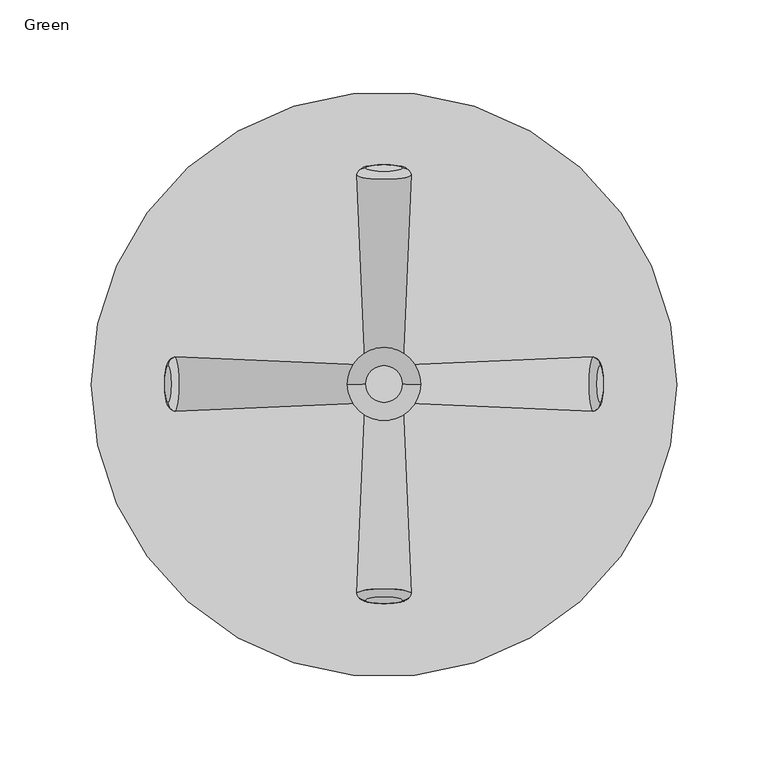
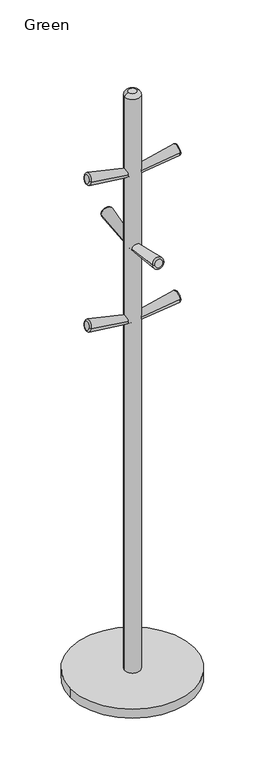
"""IFC4 building model written with IfcOpenShell, lengths in millimetres: furniture geometry, Skand Coat Rack : Green."""

from ifc_helpers import new_model, si_unit, point, frame, origin, origin_with_axes, origin_2d, place, context, project, spatial, polyline, circle_curve, ellipse_curve, trimmed, segment, composite_curve, outline, extrude, source, transform, mapped, element, save
from ifc_brep_helpers import plane_surface, cylinder_surface, revolved_surface, advanced_brep


def green_13b12a48(model_context):
    return source(origin(), model_context, "Body", "SolidModel", [
        advanced_brep(
        [(118.1769304, 10.0, 1400.652645), (118.1769304, -10.0, 1400.652645), (0.0, 10.0, 1379.8148637), (0.0, -10.0, 1379.8148637), (114.4755968, -14.8433986, 1400.0), (114.4755968, 14.8433986, 1400.0)],
        [
            (0, 1, circle_curve(frame((118.1769304, 0.0, 1400.652645), z_axis=(0.9848077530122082, 0.0, 0.1736481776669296), x_axis=(0.0, -1.0, 0.0)), 10.0)),
            (1, 0, circle_curve(frame((118.1769304, 0.0, 1400.652645), z_axis=(0.9848077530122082, 0.0, 0.1736481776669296), x_axis=(0.0, 1.0, 0.0)), 10.0)),
            (2, 3, circle_curve(frame((0.0, 0.0, 1379.8148637), z_axis=(-0.984807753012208, 0.0, -0.1736481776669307), x_axis=(0.0, -1.0, 0.0)), 10.0)),
            (3, 2, circle_curve(frame((0.0, 0.0, 1379.8148637), z_axis=(-0.984807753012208, 0.0, -0.1736481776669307), x_axis=(0.0, 1.0, 0.0)), 10.0)),
            (3, 4),
            (4, 5, circle_curve(frame((114.4755968, 0.0, 1400.0), z_axis=(-0.984807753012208, 0.0, -0.1736481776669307), x_axis=(0.0, 1.0, 0.0)), 14.8433986)),
            (5, 2),
            (5, 4, circle_curve(frame((114.4755968, 0.0, 1400.0), z_axis=(-0.984807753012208, 0.0, -0.1736481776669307), x_axis=(0.0, -1.0, 0.0)), 14.8433986)),
            (4, 1, circle_curve(frame((113.2528916, -10.0, 1399.7844041), z_axis=(-0.17364817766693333, 0.0, 0.9848077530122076), x_axis=(0.0, -1.0, 0.0)), 5.0)),
            (0, 5, circle_curve(frame((113.2528916, 10.0, 1399.7844041), z_axis=(-0.1736481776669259, 0.0, 0.9848077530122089), x_axis=(0.0, 1.0, 0.0)), 5.0)),
        ],
        [
            plane_surface(frame((118.1769304, 0.0, 1400.652645), z_axis=(0.9848077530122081, 0.0, 0.17364817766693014), x_axis=(0.17364817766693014, 0.0, -0.9848077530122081))),
            plane_surface(frame((0.0, 0.0, 1379.8148637), z_axis=(-0.9848077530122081, 0.0, -0.17364817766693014), x_axis=(0.17364817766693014, 0.0, -0.9848077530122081))),
            revolved_surface(polyline([(9.162761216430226e-09, -9.99999997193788, 1379.814863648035), (114.47559679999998, -14.8433986, 1400.0)]), (-236.3538607, 0.0, 1338.139301), (0.984807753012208, 0.0, 0.1736481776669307)),
            revolved_surface(polyline([(9.162761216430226e-09, 9.99999997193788, 1379.814863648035), (114.47559679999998, 14.8433986, 1400.0)]), (-236.3538607, 0.0, 1338.139301), (0.984807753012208, 0.0, 0.1736481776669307)),
            revolved_surface(trimmed(ellipse_curve(frame((113.2528916, -10.0, 1399.7844041), z_axis=(0.17364817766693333, 0.0, -0.9848077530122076), x_axis=(0.0, -1.0, 0.0)), 5.0, 5.0), [point((118.1769304, -10.0, 1400.652645))], [point((113.2528916, -15.0, 1399.7844041))], True, "CARTESIAN"), (118.1769304, 0.0, 1400.652645), (-0.9848077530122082, 0.0, -0.1736481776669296)),
            revolved_surface(trimmed(ellipse_curve(frame((113.2528916, 10.0, 1399.7844041), z_axis=(-0.1736481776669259, 0.0, 0.9848077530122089), x_axis=(0.0, 1.0, 0.0)), 5.0, 5.0), [point((118.1769304, 10.0, 1400.652645))], [point((113.2528916, 15.0, 1399.7844041))], True, "CARTESIAN"), (118.1769304, 0.0, 1400.652645), (-0.9848077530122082, 0.0, -0.1736481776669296)),
        ],
        [
            (0, [[1, 2]]),
            (1, [[3, 4]]),
            (2, [[-4, 5, 6, 7]]),
            (3, [[-3, -7, 8, -5]]),
            (4, [[9, -1, 10, -6]]),
            (5, [[-9, -8, -10, -2]]),
        ],
    ),
        advanced_brep(
        [(-118.1769304, 10.0, 1400.652645), (-118.1769304, -10.0, 1400.652645), (0.0, -10.0, 1379.8148637), (0.0, 10.0, 1379.8148637), (-114.4755968, -14.8433986, 1400.0), (-114.4755968, 14.8433986, 1400.0)],
        [
            (0, 1, circle_curve(frame((-118.1769304, 0.0, 1400.652645), z_axis=(-0.984807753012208, 0.0, 0.1736481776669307), x_axis=(0.0, -1.0, 0.0)), 10.0)),
            (1, 0, circle_curve(frame((-118.1769304, 0.0, 1400.652645), z_axis=(-0.984807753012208, 0.0, 0.1736481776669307), x_axis=(0.0, 1.0, 0.0)), 10.0)),
            (2, 3, circle_curve(frame((0.0, 0.0, 1379.8148637), z_axis=(0.984807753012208, 0.0, -0.1736481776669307), x_axis=(0.0, 1.0, 0.0)), 10.0)),
            (3, 2, circle_curve(frame((0.0, 0.0, 1379.8148637), z_axis=(0.984807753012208, 0.0, -0.1736481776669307), x_axis=(0.0, -1.0, 0.0)), 10.0)),
            (2, 4),
            (4, 5, circle_curve(frame((-114.4755968, 0.0, 1400.0), z_axis=(0.984807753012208, 0.0, -0.1736481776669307), x_axis=(0.0, 1.0, 0.0)), 14.8433986)),
            (5, 3),
            (5, 4, circle_curve(frame((-114.4755968, 0.0, 1400.0), z_axis=(0.984807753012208, 0.0, -0.1736481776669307), x_axis=(0.0, -1.0, 0.0)), 14.8433986)),
            (0, 5, circle_curve(frame((-113.2528916, 10.0, 1399.7844041), z_axis=(-0.17364817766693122, 0.0, -0.9848077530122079), x_axis=(0.0, 1.0, 0.0)), 5.0)),
            (4, 1, circle_curve(frame((-113.2528916, -10.0, 1399.7844041), z_axis=(-0.17364817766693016, 0.0, -0.9848077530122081), x_axis=(0.0, -1.0, 0.0)), 5.0)),
        ],
        [
            plane_surface(frame((-118.1769304, 0.0, 1400.652645), z_axis=(-0.9848077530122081, 0.0, 0.17364817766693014), x_axis=(-0.17364817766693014, 0.0, -0.9848077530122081))),
            plane_surface(frame((0.0, 0.0, 1379.8148637), z_axis=(0.9848077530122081, 0.0, -0.17364817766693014), x_axis=(-0.17364817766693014, 0.0, -0.9848077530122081))),
            revolved_surface(polyline([(-9.162761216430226e-09, -9.99999997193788, 1379.814863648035), (-114.47559679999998, -14.8433986, 1400.0)]), (236.3538607, 0.0, 1338.139301), (-0.984807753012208, 0.0, 0.1736481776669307)),
            revolved_surface(polyline([(-9.162761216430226e-09, 9.99999997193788, 1379.814863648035), (-114.47559679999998, 14.8433986, 1400.0)]), (236.3538607, 0.0, 1338.139301), (-0.984807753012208, 0.0, 0.1736481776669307)),
            revolved_surface(trimmed(ellipse_curve(frame((-113.2528916, -10.0, 1399.7844041), z_axis=(0.17364817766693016, 0.0, 0.9848077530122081), x_axis=(0.0, -1.0, 0.0)), 5.0, 5.0), [point((-118.1769304, -10.0, 1400.652645))], [point((-113.2528916, -15.0, 1399.7844041))], True, "CARTESIAN"), (-118.1769304, 0.0, 1400.652645), (0.984807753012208, 0.0, -0.1736481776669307)),
            revolved_surface(trimmed(ellipse_curve(frame((-113.2528916, 10.0, 1399.7844041), z_axis=(-0.1736481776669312, 0.0, -0.9848077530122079), x_axis=(0.0, 1.0, 0.0)), 5.0, 5.0), [point((-118.1769304, 10.0, 1400.652645))], [point((-113.2528916, 15.0, 1399.7844041))], True, "CARTESIAN"), (-118.1769304, 0.0, 1400.652645), (0.984807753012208, 0.0, -0.1736481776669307)),
        ],
        [
            (0, [[1, 2]]),
            (1, [[3, 4]]),
            (2, [[-3, 5, 6, 7]]),
            (3, [[-4, -7, 8, -5]]),
            (4, [[9, -6, 10, -1]]),
            (5, [[-9, -2, -10, -8]]),
        ],
    ),
        advanced_brep(
        [(-10.0, 118.1769304, 1200.652645), (10.0, 118.1769304, 1200.652645), (-10.0, 0.0, 1179.8148637), (10.0, 0.0, 1179.8148637), (14.8433986, 114.4755968, 1200.0), (-14.8433986, 114.4755968, 1200.0)],
        [
            (0, 1, circle_curve(frame((0.0, 118.1769304, 1200.652645), z_axis=(0.0, 0.9848077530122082, 0.1736481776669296), x_axis=(1.0, 0.0, 0.0)), 10.0)),
            (1, 0, circle_curve(frame((0.0, 118.1769304, 1200.652645), z_axis=(0.0, 0.9848077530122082, 0.1736481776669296), x_axis=(-1.0, 0.0, 0.0)), 10.0)),
            (2, 3, circle_curve(frame((0.0, 0.0, 1179.8148637), z_axis=(0.0, -0.9848077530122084, -0.1736481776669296), x_axis=(1.0, 0.0, 0.0)), 10.0)),
            (3, 2, circle_curve(frame((0.0, 0.0, 1179.8148637), z_axis=(0.0, -0.9848077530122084, -0.1736481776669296), x_axis=(-1.0, 0.0, 0.0)), 10.0)),
            (3, 4),
            (4, 5, circle_curve(frame((0.0, 114.4755968, 1200.0), z_axis=(0.0, -0.9848077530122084, -0.1736481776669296), x_axis=(-1.0, 0.0, 0.0)), 14.8433986)),
            (5, 2),
            (5, 4, circle_curve(frame((0.0, 114.4755968, 1200.0), z_axis=(0.0, -0.9848077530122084, -0.1736481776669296), x_axis=(1.0, 0.0, 0.0)), 14.8433986)),
            (4, 1, circle_curve(frame((10.0, 113.2528916, 1199.7844041), z_axis=(0.0, -0.17364817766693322, 0.9848077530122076), x_axis=(1.0, 0.0, 0.0)), 5.0)),
            (0, 5, circle_curve(frame((-10.0, 113.2528916, 1199.7844041), z_axis=(0.0, -0.173648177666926, 0.9848077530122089), x_axis=(-1.0, 0.0, 0.0)), 5.0)),
        ],
        [
            plane_surface(frame((0.0, 118.1769304, 1200.652645), z_axis=(0.0, 0.9848077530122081, 0.17364817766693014), x_axis=(0.0, 0.17364817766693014, -0.9848077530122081))),
            plane_surface(frame((0.0, 0.0, 1179.8148637), z_axis=(0.0, -0.9848077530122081, -0.17364817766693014), x_axis=(0.0, 0.17364817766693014, -0.9848077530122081))),
            revolved_surface(polyline([(9.99999997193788, 9.162761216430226e-09, 1179.814863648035), (14.8433986, 114.47559679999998, 1200.0)]), (0.0, -236.3538607, 1138.139301), (0.0, 0.9848077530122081, 0.17364817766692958)),
            revolved_surface(polyline([(-9.99999997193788, 9.162761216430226e-09, 1179.814863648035), (-14.8433986, 114.47559679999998, 1200.0)]), (0.0, -236.3538607, 1138.139301), (0.0, 0.9848077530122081, 0.17364817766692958)),
            revolved_surface(trimmed(ellipse_curve(frame((10.0, 113.2528916, 1199.7844041), z_axis=(0.0, 0.17364817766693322, -0.9848077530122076), x_axis=(1.0, 0.0, 0.0)), 5.0, 5.0), [point((10.0, 118.1769304, 1200.652645))], [point((15.0, 113.2528916, 1199.7844041))], True, "CARTESIAN"), (0.0, 118.1769304, 1200.652645), (0.0, -0.9848077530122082, -0.1736481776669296)),
            revolved_surface(trimmed(ellipse_curve(frame((-10.0, 113.2528916, 1199.7844041), z_axis=(0.0, -0.17364817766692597, 0.9848077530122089), x_axis=(-1.0, 0.0, 0.0)), 5.0, 5.0), [point((-10.0, 118.1769304, 1200.652645))], [point((-15.0, 113.2528916, 1199.7844041))], True, "CARTESIAN"), (0.0, 118.1769304, 1200.652645), (0.0, -0.9848077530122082, -0.1736481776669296)),
        ],
        [
            (0, [[1, 2]]),
            (1, [[3, 4]]),
            (2, [[-4, 5, 6, 7]]),
            (3, [[-3, -7, 8, -5]]),
            (4, [[9, -1, 10, -6]]),
            (5, [[-9, -8, -10, -2]]),
        ],
    ),
        advanced_brep(
        [(10.0, -118.1769304, 1200.652645), (-10.0, -118.1769304, 1200.652645), (10.0, 0.0, 1179.8148637), (-10.0, 0.0, 1179.8148637), (-14.8433986, -114.4755968, 1200.0), (14.8433986, -114.4755968, 1200.0)],
        [
            (0, 1, circle_curve(frame((0.0, -118.1769304, 1200.652645), z_axis=(0.0, -0.9848077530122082, 0.1736481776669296), x_axis=(-1.0, 0.0, 0.0)), 10.0)),
            (1, 0, circle_curve(frame((0.0, -118.1769304, 1200.652645), z_axis=(0.0, -0.9848077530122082, 0.1736481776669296), x_axis=(1.0, 0.0, 0.0)), 10.0)),
            (2, 3, circle_curve(frame((0.0, 0.0, 1179.8148637), z_axis=(0.0, 0.9848077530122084, -0.1736481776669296), x_axis=(-1.0, 0.0, 0.0)), 10.0)),
            (3, 2, circle_curve(frame((0.0, 0.0, 1179.8148637), z_axis=(0.0, 0.9848077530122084, -0.1736481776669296), x_axis=(1.0, 0.0, 0.0)), 10.0)),
            (3, 4),
            (4, 5, circle_curve(frame((0.0, -114.4755968, 1200.0), z_axis=(0.0, 0.9848077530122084, -0.1736481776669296), x_axis=(1.0, 0.0, 0.0)), 14.8433986)),
            (5, 2),
            (5, 4, circle_curve(frame((0.0, -114.4755968, 1200.0), z_axis=(0.0, 0.9848077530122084, -0.1736481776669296), x_axis=(-1.0, 0.0, 0.0)), 14.8433986)),
            (4, 1, circle_curve(frame((-10.0, -113.2528916, 1199.7844041), z_axis=(0.0, 0.17364817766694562, 0.9848077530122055), x_axis=(-1.0, 0.0, 0.0)), 5.0)),
            (0, 5, circle_curve(frame((10.0, -113.2528916, 1199.7844041), z_axis=(0.0, 0.1736481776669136, 0.984807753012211), x_axis=(1.0, 0.0, 0.0)), 5.0)),
        ],
        [
            plane_surface(frame((0.0, -118.1769304, 1200.652645), z_axis=(0.0, -0.9848077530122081, 0.17364817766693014), x_axis=(0.0, -0.17364817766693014, -0.9848077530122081))),
            plane_surface(frame((0.0, 0.0, 1179.8148637), z_axis=(0.0, 0.9848077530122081, -0.17364817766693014), x_axis=(0.0, -0.17364817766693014, -0.9848077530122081))),
            revolved_surface(polyline([(-9.99999997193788, -9.162761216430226e-09, 1179.814863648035), (-14.8433986, -114.47559679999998, 1200.0)]), (0.0, 236.3538607, 1138.139301), (0.0, -0.9848077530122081, 0.17364817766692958)),
            revolved_surface(polyline([(9.99999997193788, -9.162761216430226e-09, 1179.814863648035), (14.8433986, -114.47559679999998, 1200.0)]), (0.0, 236.3538607, 1138.139301), (0.0, -0.9848077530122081, 0.17364817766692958)),
            revolved_surface(trimmed(ellipse_curve(frame((-10.0, -113.2528916, 1199.7844041), z_axis=(0.0, -0.17364817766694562, -0.9848077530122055), x_axis=(-1.0, 0.0, 0.0)), 5.0, 5.0), [point((-10.0, -118.1769304, 1200.652645))], [point((-15.0, -113.2528916, 1199.7844041))], True, "CARTESIAN"), (0.0, -118.1769304, 1200.652645), (0.0, 0.9848077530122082, -0.1736481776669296)),
            revolved_surface(trimmed(ellipse_curve(frame((10.0, -113.2528916, 1199.7844041), z_axis=(0.0, 0.17364817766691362, 0.984807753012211), x_axis=(1.0, 0.0, 0.0)), 5.0, 5.0), [point((10.0, -118.1769304, 1200.652645))], [point((15.0, -113.2528916, 1199.7844041))], True, "CARTESIAN"), (0.0, -118.1769304, 1200.652645), (0.0, 0.9848077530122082, -0.1736481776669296)),
        ],
        [
            (0, [[1, 2]]),
            (1, [[3, 4]]),
            (2, [[-4, 5, 6, 7]]),
            (3, [[-3, -7, 8, -5]]),
            (4, [[9, -1, 10, -6]]),
            (5, [[-9, -8, -10, -2]]),
        ],
    ),
        advanced_brep(
        [(118.1769304, 10.0, 1000.652645), (118.1769304, -10.0, 1000.652645), (0.0, 10.0, 979.8148637), (0.0, -10.0, 979.8148637), (114.4755968, -14.8433986, 1000.0), (114.4755968, 14.8433986, 1000.0)],
        [
            (0, 1, circle_curve(frame((118.1769304, 0.0, 1000.652645), z_axis=(0.9848077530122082, 0.0, 0.1736481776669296), x_axis=(0.0, -1.0, 0.0)), 10.0)),
            (1, 0, circle_curve(frame((118.1769304, 0.0, 1000.652645), z_axis=(0.9848077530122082, 0.0, 0.1736481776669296), x_axis=(0.0, 1.0, 0.0)), 10.0)),
            (2, 3, circle_curve(frame((0.0, 0.0, 979.8148637), z_axis=(-0.9848077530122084, 0.0, -0.1736481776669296), x_axis=(0.0, -1.0, 0.0)), 10.0)),
            (3, 2, circle_curve(frame((0.0, 0.0, 979.8148637), z_axis=(-0.9848077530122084, 0.0, -0.1736481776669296), x_axis=(0.0, 1.0, 0.0)), 10.0)),
            (3, 4),
            (4, 5, circle_curve(frame((114.4755968, 0.0, 1000.0), z_axis=(-0.9848077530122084, 0.0, -0.1736481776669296), x_axis=(0.0, 1.0, 0.0)), 14.8433986)),
            (5, 2),
            (5, 4, circle_curve(frame((114.4755968, 0.0, 1000.0), z_axis=(-0.9848077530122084, 0.0, -0.1736481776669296), x_axis=(0.0, -1.0, 0.0)), 14.8433986)),
            (4, 1, circle_curve(frame((113.2528916, -10.0, 999.7844041), z_axis=(-0.17364817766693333, 0.0, 0.9848077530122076), x_axis=(0.0, -1.0, 0.0)), 5.0)),
            (0, 5, circle_curve(frame((113.2528916, 10.0, 999.7844041), z_axis=(-0.1736481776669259, 0.0, 0.9848077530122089), x_axis=(0.0, 1.0, 0.0)), 5.0)),
        ],
        [
            plane_surface(frame((118.1769304, 0.0, 1000.652645), z_axis=(0.9848077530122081, 0.0, 0.17364817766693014), x_axis=(0.17364817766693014, 0.0, -0.9848077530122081))),
            plane_surface(frame((0.0, 0.0, 979.8148637), z_axis=(-0.9848077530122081, 0.0, -0.17364817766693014), x_axis=(0.17364817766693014, 0.0, -0.9848077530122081))),
            revolved_surface(polyline([(9.162789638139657e-09, -9.999999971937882, 979.8148636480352), (114.47559679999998, -14.8433986, 1000.0)]), (-236.3538607, 0.0, 938.139301), (0.9848077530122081, 0.0, 0.17364817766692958)),
            revolved_surface(polyline([(9.162789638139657e-09, 9.999999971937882, 979.8148636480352), (114.47559679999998, 14.8433986, 1000.0)]), (-236.3538607, 0.0, 938.139301), (0.9848077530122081, 0.0, 0.17364817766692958)),
            revolved_surface(trimmed(ellipse_curve(frame((113.2528916, -10.0, 999.7844041), z_axis=(0.17364817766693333, 0.0, -0.9848077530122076), x_axis=(0.0, -1.0, 0.0)), 5.0, 5.0), [point((118.1769304, -10.0, 1000.652645))], [point((113.2528916, -15.0, 999.7844041))], True, "CARTESIAN"), (118.1769304, 0.0, 1000.652645), (-0.9848077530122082, 0.0, -0.1736481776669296)),
            revolved_surface(trimmed(ellipse_curve(frame((113.2528916, 10.0, 999.7844041), z_axis=(-0.1736481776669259, 0.0, 0.9848077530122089), x_axis=(0.0, 1.0, 0.0)), 5.0, 5.0), [point((118.1769304, 10.0, 1000.652645))], [point((113.2528916, 15.0, 999.7844041))], True, "CARTESIAN"), (118.1769304, 0.0, 1000.652645), (-0.9848077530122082, 0.0, -0.1736481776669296)),
        ],
        [
            (0, [[1, 2]]),
            (1, [[3, 4]]),
            (2, [[-4, 5, 6, 7]]),
            (3, [[-3, -7, 8, -5]]),
            (4, [[9, -1, 10, -6]]),
            (5, [[-9, -8, -10, -2]]),
        ],
    ),
        advanced_brep(
        [(-118.1769304, 10.0, 1000.652645), (-118.1769304, -10.0, 1000.652645), (0.0, -10.0, 979.8148637), (0.0, 10.0, 979.8148637), (-114.4755968, -14.8433986, 1000.0), (-114.4755968, 14.8433986, 1000.0)],
        [
            (0, 1, circle_curve(frame((-118.1769304, 0.0, 1000.652645), z_axis=(-0.9848077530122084, 0.0, 0.1736481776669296), x_axis=(0.0, -1.0, 0.0)), 10.0)),
            (1, 0, circle_curve(frame((-118.1769304, 0.0, 1000.652645), z_axis=(-0.9848077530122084, 0.0, 0.1736481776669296), x_axis=(0.0, 1.0, 0.0)), 10.0)),
            (2, 3, circle_curve(frame((0.0, 0.0, 979.8148637), z_axis=(0.9848077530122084, 0.0, -0.1736481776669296), x_axis=(0.0, 1.0, 0.0)), 10.0)),
            (3, 2, circle_curve(frame((0.0, 0.0, 979.8148637), z_axis=(0.9848077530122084, 0.0, -0.1736481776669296), x_axis=(0.0, -1.0, 0.0)), 10.0)),
            (2, 4),
            (4, 5, circle_curve(frame((-114.4755968, 0.0, 1000.0), z_axis=(0.9848077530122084, 0.0, -0.1736481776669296), x_axis=(0.0, 1.0, 0.0)), 14.8433986)),
            (5, 3),
            (5, 4, circle_curve(frame((-114.4755968, 0.0, 1000.0), z_axis=(0.9848077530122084, 0.0, -0.1736481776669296), x_axis=(0.0, -1.0, 0.0)), 14.8433986)),
            (0, 5, circle_curve(frame((-113.2528916, 10.0, 999.7844041), z_axis=(-0.17364817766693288, 0.0, -0.9848077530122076), x_axis=(0.0, 1.0, 0.0)), 5.0)),
            (4, 1, circle_curve(frame((-113.2528916, -10.0, 999.7844041), z_axis=(-0.17364817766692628, 0.0, -0.9848077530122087), x_axis=(0.0, -1.0, 0.0)), 5.0)),
        ],
        [
            plane_surface(frame((-118.1769304, 0.0, 1000.652645), z_axis=(-0.9848077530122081, 0.0, 0.17364817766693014), x_axis=(-0.17364817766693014, 0.0, -0.9848077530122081))),
            plane_surface(frame((0.0, 0.0, 979.8148637), z_axis=(0.9848077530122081, 0.0, -0.17364817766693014), x_axis=(-0.17364817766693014, 0.0, -0.9848077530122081))),
            revolved_surface(polyline([(-9.162789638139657e-09, -9.999999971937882, 979.8148636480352), (-114.47559679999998, -14.8433986, 1000.0)]), (236.3538607, 0.0, 938.139301), (-0.9848077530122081, 0.0, 0.17364817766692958)),
            revolved_surface(polyline([(-9.162789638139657e-09, 9.999999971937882, 979.8148636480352), (-114.47559679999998, 14.8433986, 1000.0)]), (236.3538607, 0.0, 938.139301), (-0.9848077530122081, 0.0, 0.17364817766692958)),
            revolved_surface(trimmed(ellipse_curve(frame((-113.2528916, -10.0, 999.7844041), z_axis=(0.17364817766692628, 0.0, 0.9848077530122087), x_axis=(0.0, -1.0, 0.0)), 5.0, 5.0), [point((-118.1769304, -10.0, 1000.652645))], [point((-113.2528916, -15.0, 999.7844041))], True, "CARTESIAN"), (-118.1769304, 0.0, 1000.652645), (0.9848077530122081, 0.0, -0.17364817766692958)),
            revolved_surface(trimmed(ellipse_curve(frame((-113.2528916, 10.0, 999.7844041), z_axis=(-0.17364817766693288, 0.0, -0.9848077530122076), x_axis=(0.0, 1.0, 0.0)), 5.0, 5.0), [point((-118.1769304, 10.0, 1000.652645))], [point((-113.2528916, 15.0, 999.7844041))], True, "CARTESIAN"), (-118.1769304, 0.0, 1000.652645), (0.9848077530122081, 0.0, -0.17364817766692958)),
        ],
        [
            (0, [[1, 2]]),
            (1, [[3, 4]]),
            (2, [[-3, 5, 6, 7]]),
            (3, [[-4, -7, 8, -5]]),
            (4, [[9, -6, 10, -1]]),
            (5, [[-9, -2, -10, -8]]),
        ],
    ),
        advanced_brep(
        [(10.0, 0.0, 1600.0), (-10.0, 0.0, 1600.0), (-20.0, 0.0, 25.0), (20.0, 0.0, 25.0), (20.0, 0.0, 1590.0), (-20.0, 0.0, 1590.0)],
        [
            (0, 1, circle_curve(frame((0.0, 0.0, 1600.0), z_axis=(0.0, 0.0, 1.0), x_axis=(-1.0, 0.0, 0.0)), 10.0)),
            (1, 0, circle_curve(frame((0.0, 0.0, 1600.0), z_axis=(0.0, 0.0, 1.0), x_axis=(1.0, 0.0, 0.0)), 10.0)),
            (2, 3, circle_curve(frame((0.0, 0.0, 25.0), z_axis=(0.0, 0.0, -1.0), x_axis=(1.0, 0.0, 0.0)), 20.0)),
            (3, 2, circle_curve(frame((0.0, 0.0, 25.0), z_axis=(0.0, 0.0, -1.0), x_axis=(1.0, 0.0, 0.0)), 20.0)),
            (3, 4),
            (4, 5, circle_curve(frame((0.0, 0.0, 1590.0), z_axis=(0.0, 0.0, -1.0), x_axis=(1.0, 0.0, 0.0)), 20.0)),
            (5, 2),
            (5, 4, circle_curve(frame((0.0, 0.0, 1590.0), z_axis=(0.0, 0.0, -1.0), x_axis=(1.0, 0.0, 0.0)), 20.0)),
            (0, 4, circle_curve(frame((10.0, 0.0, 1590.0), z_axis=(0.0, 1.0, 0.0), x_axis=(1.0, 0.0, 0.0)), 10.0)),
            (5, 1, circle_curve(frame((-10.0, 0.0, 1590.0), z_axis=(0.0, 1.0, 0.0), x_axis=(-1.0, 0.0, 0.0)), 10.0)),
        ],
        [
            plane_surface(frame((20.0, 0.0, 1600.0), z_axis=(0.0, 0.0, 1.0), x_axis=(0.0, 1.0, 0.0))),
            plane_surface(frame((20.0, 0.0, 25.0), z_axis=(0.0, 0.0, -1.0), x_axis=(0.0, -1.0, 0.0))),
            cylinder_surface(frame((0.0, 0.0, 25.0), z_axis=(0.0, 0.0, 1.0), x_axis=(1.0, 0.0, 0.0)), 20.0),
            revolved_surface(trimmed(ellipse_curve(frame((-10.0, 0.0, 1590.0), z_axis=(0.0, -1.0, 0.0), x_axis=(-1.0, 0.0, 0.0)), 10.0, 10.0), [point((-10.0, 0.0, 1600.0))], [point((-20.0, 0.0, 1590.0))], True, "CARTESIAN"), (0.0, 0.0, 1600.0), (0.0, 0.0, -1.0)),
            revolved_surface(trimmed(ellipse_curve(frame((10.0, 0.0, 1590.0), z_axis=(0.0, 1.0, 0.0), x_axis=(1.0, 0.0, 0.0)), 10.0, 10.0), [point((10.0, 0.0, 1600.0))], [point((20.0, 0.0, 1590.0))], True, "CARTESIAN"), (0.0, 0.0, 1600.0), (0.0, 0.0, -1.0)),
        ],
        [
            (0, [[1, 2]]),
            (1, [[3, 4]]),
            (2, [[-4, 5, 6, 7]]),
            (2, [[-3, -7, 8, -5]]),
            (3, [[9, -8, 10, -1]]),
            (4, [[-9, -2, -10, -6]]),
        ],
    ),
        extrude(outline(composite_curve([segment(trimmed(circle_curve(origin_2d(), 160.0), [point((-160.0, 0.0))], [point((160.0, 0.0))], False, "CARTESIAN"), True, "CONTINUOUS"), segment(trimmed(circle_curve(origin_2d(), 160.0), [point((160.0, 0.0))], [point((-160.0, 0.0))], False, "CARTESIAN"), True, "CONTINUOUS")], self_intersect=False)), origin_with_axes(), (0.0, 0.0, 1.0), 25.0),
    ])


if __name__ == "__main__":
    model = new_model("IFC4")
    model_context = context("Model", 3, world=origin())
    ifc_project = project(units=[si_unit("LENGTHUNIT", "METRE", prefix="MILLI")], contexts=[model_context])
    site = spatial("IfcSite", under=ifc_project)
    building = spatial("IfcBuilding", under=site)
    placement = place(None, origin())
    green_shape = green_13b12a48(model_context)
    element("IfcFurniture", 1, ObjectType="Skand Coat Rack : Green", at=placement, inside=building, context=model_context, shape_type="MappedRepresentation", body=[
        mapped(green_shape, transform((0.0, 0.0, 0.0), x_axis=(1.0, 0.0, 0.0), y_axis=(0.0, 1.0, 0.0), z_axis=(0.0, 0.0, 1.0))),
    ])
    save(model, "model.ifc")
